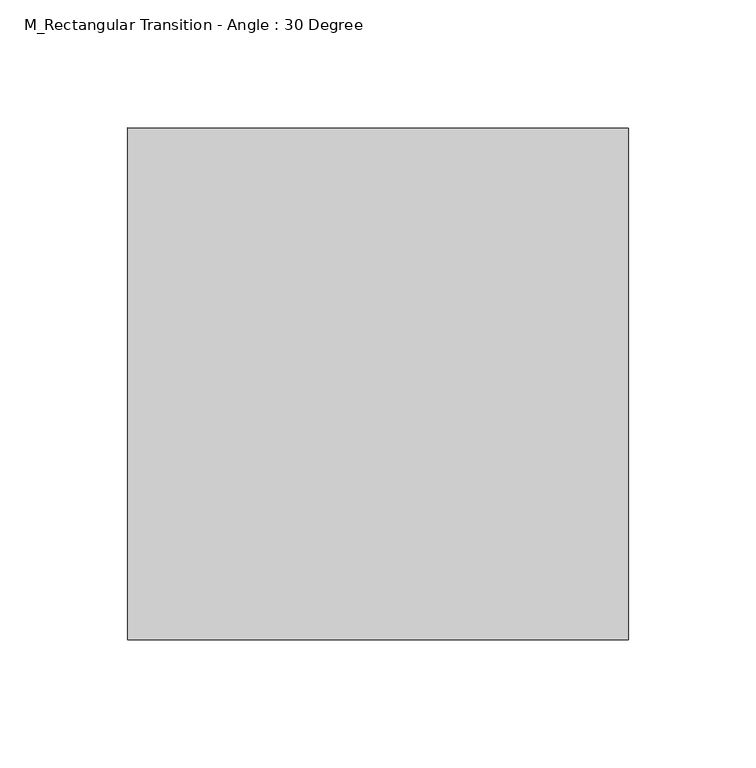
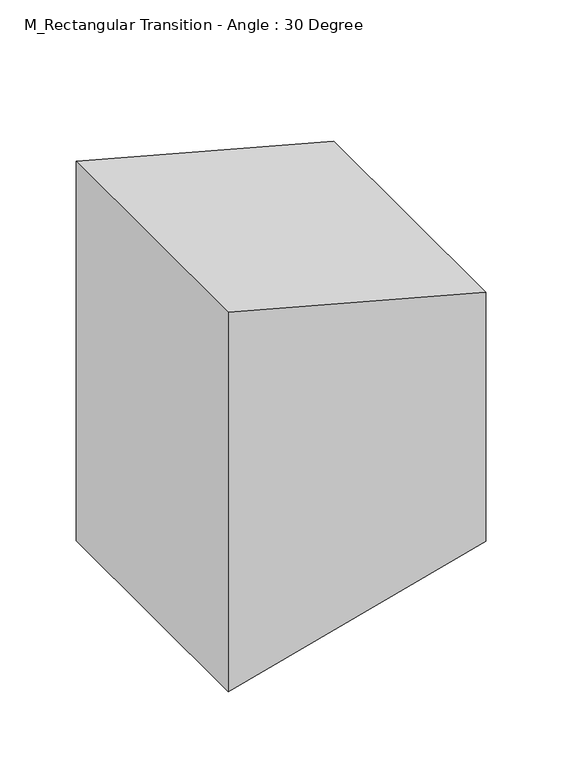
"""IFC4 building model written with IfcOpenShell, lengths in millimetres: duct fitting geometry, M_Rectangular Transition - Angle : 30 Degree."""

from ifc_helpers import new_model, si_unit, frame, origin, place, context, project, spatial, polyline, outline, extrude, source, transform, mapped, element, save


def m_rectangular_transition_angle_30_degree_ebf3d393(model_context):
    return source(origin(), model_context, "Body", "SweptSolid", [
        extrude(outline(polyline([(152.4, 0.0), (-152.4, 0.0), (-100.0, 195.5594623), (100.0, 195.5594623), (152.4, 0.0)])), frame((0.0, -100.0, 0.0), z_axis=(0.0, 1.0, 0.0), x_axis=(0.0, 0.0, 1.0)), (0.0, 0.0, 1.0), 200.0),
    ])


if __name__ == "__main__":
    model = new_model("IFC4")
    model_context = context("Model", 3, world=origin())
    ifc_project = project(units=[si_unit("LENGTHUNIT", "METRE", prefix="MILLI")], contexts=[model_context])
    site = spatial("IfcSite", under=ifc_project)
    building = spatial("IfcBuilding", under=site)
    placement = place(None, origin())
    m_rectangular_transition_angle_30_degree_shape = m_rectangular_transition_angle_30_degree_ebf3d393(model_context)
    element("IfcDuctFitting", 1, ObjectType="M_Rectangular Transition - Angle : 30 Degree", at=placement, inside=building, context=model_context, shape_type="MappedRepresentation", body=[
        mapped(m_rectangular_transition_angle_30_degree_shape, transform((0.0, 0.0, 0.0), x_axis=(1.0, 0.0, 0.0), y_axis=(0.0, 1.0, 0.0), z_axis=(0.0, 0.0, 1.0))),
    ])
    save(model, "model.ifc")
